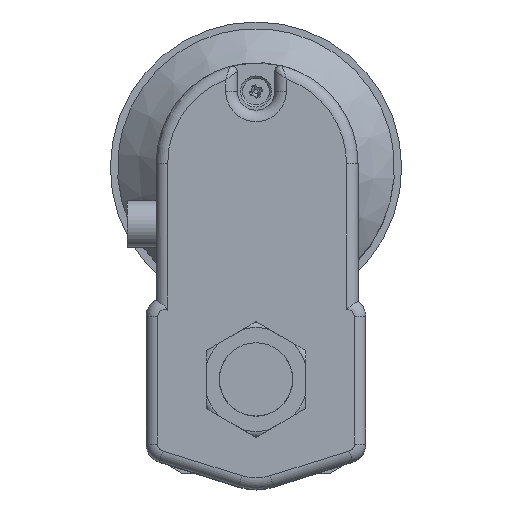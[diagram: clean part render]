
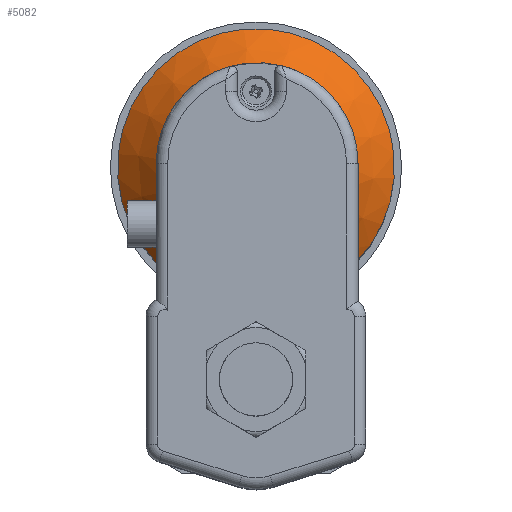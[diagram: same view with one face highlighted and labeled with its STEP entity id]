
A CAD part, top view. The second image highlights one B-rep face of the part: STEP entity #5082.
In plain terms, the highlighted conical face has half-angle 45 degrees and reference radius 48 mm.
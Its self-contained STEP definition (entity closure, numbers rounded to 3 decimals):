
#724 = VERTEX_POINT ( 'NONE', #725 ) ;
#725 = CARTESIAN_POINT ( 'NONE',  ( 0., 39.9, 67.5 ) ) ;
#958 = B_SPLINE_CURVE_WITH_KNOTS ( 'NONE', 3,
 ( #9074, #9080, #9081, #9082, #9083, #9084, #9085, #9086, #9087, #9088, #9089, #9090, #9091, #9092, #9093, #9094, #9095, #9096, #9097, #9098, #9099, #9100, #9101, #9102, #9103, #9104 ),
 .UNSPECIFIED., .F., .F.,
 ( 4, 2, 2, 2, 2, 2, 2, 2, 2, 2, 2, 2, 4 ),
 ( 0., 0.004, 0.007, 0.015, 0.018, 0.022, 0.026, 0.029, 0.037, 0.04, 0.044, 0.051, 0.059 ),
 .UNSPECIFIED. ) ;
#2678 = AXIS2_PLACEMENT_3D ( 'NONE', #9158, #9171, #9172 ) ;
#2681 = AXIS2_PLACEMENT_3D ( 'NONE', #9163, #9173, #9174 ) ;
#3343 = AXIS2_PLACEMENT_3D ( 'NONE', #6431, #6432, #6420 ) ;
#3357 = ORIENTED_EDGE ( 'NONE', *, *, #4032, .T. ) ;
#3372 = ORIENTED_EDGE ( 'NONE', *, *, #4033, .F. ) ;
#3399 = ORIENTED_EDGE ( 'NONE', *, *, #4003, .T. ) ;
#3566 = EDGE_LOOP ( 'NONE', ( #3357, #3399 ) ) ;
#3645 = EDGE_LOOP ( 'NONE', ( #3372 ) ) ;
#4003 = EDGE_CURVE ( 'NONE', #7177, #7178, #958, .T. ) ;
#4032 = EDGE_CURVE ( 'NONE', #7178, #7177, #7431, .T. ) ;
#4033 = EDGE_CURVE ( 'NONE', #724, #724, #7433, .T. ) ;
#5082 = ADVANCED_FACE ( 'NONE', ( #8071, #8068 ), #8069, .T. ) ;
#6420 = DIRECTION ( 'NONE',  ( 0., 1., 0. ) ) ;
#6431 = CARTESIAN_POINT ( 'NONE',  ( 0., 73.9, 53.5 ) ) ;
#6432 = DIRECTION ( 'NONE',  ( 0., 0., -1. ) ) ;
#6757 = CARTESIAN_POINT ( 'NONE',  ( -27.908, 34.847, 53.5 ) ) ;
#6758 = CARTESIAN_POINT ( 'NONE',  ( 27.908, 34.847, 53.5 ) ) ;
#7177 = VERTEX_POINT ( 'NONE', #6757 ) ;
#7178 = VERTEX_POINT ( 'NONE', #6758 ) ;
#7431 = CIRCLE ( 'NONE', #2678, 48. ) ;
#7433 = CIRCLE ( 'NONE', #2681, 34. ) ;
#8068 = FACE_OUTER_BOUND ( 'NONE', #3566, .T. ) ;
#8069 = CONICAL_SURFACE ( 'NONE', #3343, 48., 0.785 ) ;
#8071 = FACE_BOUND ( 'NONE', #3645, .T. ) ;
#9074 = CARTESIAN_POINT ( 'NONE',  ( -27.908, 34.847, 53.5 ) ) ;
#9080 = CARTESIAN_POINT ( 'NONE',  ( -26.826, 34.768, 54.065 ) ) ;
#9081 = CARTESIAN_POINT ( 'NONE',  ( -25.733, 34.688, 54.609 ) ) ;
#9082 = CARTESIAN_POINT ( 'NONE',  ( -23.531, 34.53, 55.644 ) ) ;
#9083 = CARTESIAN_POINT ( 'NONE',  ( -22.421, 34.452, 56.137 ) ) ;
#9084 = CARTESIAN_POINT ( 'NONE',  ( -19.06, 34.223, 57.53 ) ) ;
#9085 = CARTESIAN_POINT ( 'NONE',  ( -16.779, 34.077, 58.344 ) ) ;
#9086 = CARTESIAN_POINT ( 'NONE',  ( -13.28, 33.887, 59.356 ) ) ;
#9087 = CARTESIAN_POINT ( 'NONE',  ( -12.101, 33.829, 59.657 ) ) ;
#9088 = CARTESIAN_POINT ( 'NONE',  ( -9.715, 33.725, 60.183 ) ) ;
#9089 = CARTESIAN_POINT ( 'NONE',  ( -8.505, 33.679, 60.407 ) ) ;
#9090 = CARTESIAN_POINT ( 'NONE',  ( -6.081, 33.605, 60.767 ) ) ;
#9091 = CARTESIAN_POINT ( 'NONE',  ( -4.863, 33.577, 60.903 ) ) ;
#9092 = CARTESIAN_POINT ( 'NONE',  ( -2.415, 33.538, 61.085 ) ) ;
#9093 = CARTESIAN_POINT ( 'NONE',  ( -1.188, 33.529, 61.13 ) ) ;
#9094 = CARTESIAN_POINT ( 'NONE',  ( 2.477, 33.529, 61.127 ) ) ;
#9095 = CARTESIAN_POINT ( 'NONE',  ( 4.908, 33.569, 60.942 ) ) ;
#9096 = CARTESIAN_POINT ( 'NONE',  ( 8.537, 33.68, 60.402 ) ) ;
#9097 = CARTESIAN_POINT ( 'NONE',  ( 9.746, 33.726, 60.177 ) ) ;
#9098 = CARTESIAN_POINT ( 'NONE',  ( 12.13, 33.83, 59.65 ) ) ;
#9099 = CARTESIAN_POINT ( 'NONE',  ( 13.307, 33.888, 59.348 ) ) ;
#9100 = CARTESIAN_POINT ( 'NONE',  ( 16.801, 34.078, 58.337 ) ) ;
#9101 = CARTESIAN_POINT ( 'NONE',  ( 19.078, 34.224, 57.523 ) ) ;
#9102 = CARTESIAN_POINT ( 'NONE',  ( 23.55, 34.529, 55.668 ) ) ;
#9103 = CARTESIAN_POINT ( 'NONE',  ( 25.745, 34.688, 54.629 ) ) ;
#9104 = CARTESIAN_POINT ( 'NONE',  ( 27.908, 34.847, 53.5 ) ) ;
#9158 = CARTESIAN_POINT ( 'NONE',  ( 0., 73.9, 53.5 ) ) ;
#9163 = CARTESIAN_POINT ( 'NONE',  ( 0., 73.9, 67.5 ) ) ;
#9171 = DIRECTION ( 'NONE',  ( 0., 0., 1. ) ) ;
#9172 = DIRECTION ( 'NONE',  ( 0., -1., 0. ) ) ;
#9173 = DIRECTION ( 'NONE',  ( 0., 0., 1. ) ) ;
#9174 = DIRECTION ( 'NONE',  ( 0., -1., 0. ) ) ;
